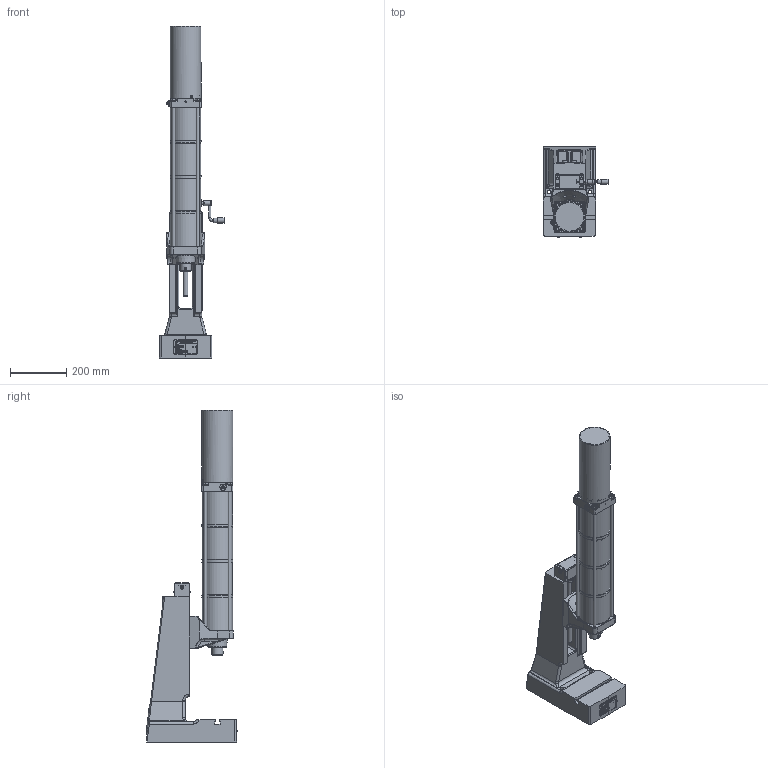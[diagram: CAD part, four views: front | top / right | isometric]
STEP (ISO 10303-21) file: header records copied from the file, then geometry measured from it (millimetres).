
FILE_DESCRIPTION(/* description */ ('Bausatz Ständer T460 N HV-OST'),/* implementation_level */ '2;1');
FILE_NAME(/* name */ 'B:\02_CAD_oeffentlich\CAD_3D_oeffentlich_step\Druckluftpresse\DRP_1700_080_100.stp',/* time_stamp */ '2017-08-25T08:54:12+02:00',/* author */ ('Finsterle'),/* organization */ (''),/* preprocessor_version */ 'ST-DEVELOPER v16.1',/* originating_system */ 'Autodesk Inventor 2016',/* authorisation */ '');
FILE_SCHEMA (('AUTOMOTIVE_DESIGN { 1 0 10303 214 3 1 1 }'));
Products named in the file (5): ENG-000341-1_V; ENG-001038_V; HBF-000760; ENG-000755; HBF-001062_V
Assembly tree (5 placements, depth 2):
  HBF-001062_V
    ENG-000341-1_V
    ENG-001038_V
    HBF-000760
    ENG-000755  x2
Bounding box: 231.79 x 321.2 x 1183 mm (x, y, z)
Volume: 10205420.9 mm3; surface area: 1547961.2 mm2
Topology: 6 solids, 29 shells, 7849 faces, 21167 edges, 13802 vertices
Faces by surface type: plane 4664, bspline 2170, cylinder 545, cone 274, torus 120, sphere 76
Full cylindrical faces by diameter (mm): 1 x1, 2 x1, 2.459 x2, 3 x9, 3.242 x7, 3.5 x2, 3.65 x4, 4 x10, 4.134 x1, 4.5 x4, 4.917 x6, 5 x3, 6 x4, 6.2 x4, 6.5 x2, 6.647 x1, 8 x7, 8.4 x1, 8.5 x1, 10 x12, 10.02 x1, 10.106 x2, 10.5 x12, 11.8 x2, 12 x7, 13 x8, 13.5 x4, 14 x3, 14.376 x2, 14.95 x3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
Entity records: 267389 total; most frequent: CARTESIAN_POINT 80081, ORIENTED_EDGE 40892, DIRECTION 28928, EDGE_CURVE 20434, LINE 14076, VECTOR 14076, VERTEX_POINT 13641, EDGE_LOOP 8928
